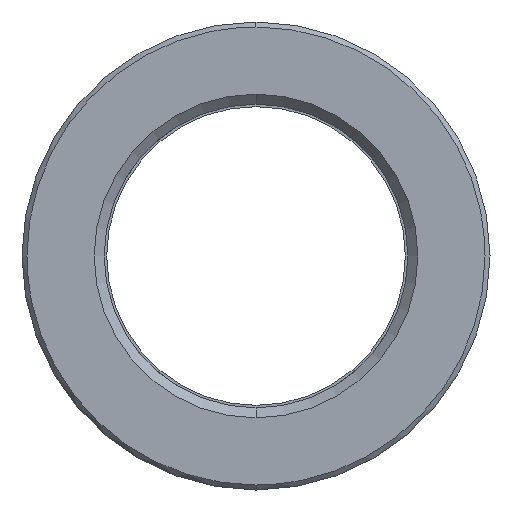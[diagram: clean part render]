
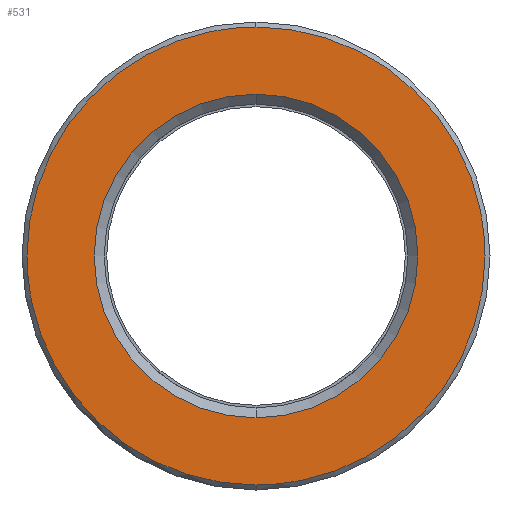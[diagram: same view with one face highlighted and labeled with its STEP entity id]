
A CAD part, left-side view. The second image highlights one B-rep face of the part: STEP entity #531.
In plain terms, the highlighted planar face has unit normal (-1, 0, 0).
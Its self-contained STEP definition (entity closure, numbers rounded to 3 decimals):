
#311=CARTESIAN_POINT('Axis2P3D Location',(0.,0.,0.)) ;
#315=CARTESIAN_POINT('Vertex',(0.,16.25,0.)) ;
#317=CARTESIAN_POINT('Vertex',(0.,0.,16.25)) ;
#320=CARTESIAN_POINT('Axis2P3D Location',(0.,0.,0.)) ;
#324=CARTESIAN_POINT('Vertex',(0.,0.,-16.25)) ;
#351=CARTESIAN_POINT('Axis2P3D Location',(0.,0.,0.)) ;
#355=CARTESIAN_POINT('Vertex',(0.,-16.25,0.)) ;
#358=CARTESIAN_POINT('Axis2P3D Location',(0.,0.,0.)) ;
#438=CARTESIAN_POINT('Axis2P3D Location',(0.,23.,0.)) ;
#444=CARTESIAN_POINT('Control Point',(0.,0.,-23.)) ;
#445=CARTESIAN_POINT('Control Point',(0.,1.232,-23.)) ;
#446=CARTESIAN_POINT('Control Point',(0.,2.465,-22.917)) ;
#447=CARTESIAN_POINT('Control Point',(0.,3.69,-22.752)) ;
#448=CARTESIAN_POINT('Control Point',(0.,6.977,-22.083)) ;
#449=CARTESIAN_POINT('Control Point',(0.,10.102,-20.826)) ;
#450=CARTESIAN_POINT('Control Point',(0.,11.977,-19.807)) ;
#451=CARTESIAN_POINT('Control Point',(0.,15.458,-17.357)) ;
#452=CARTESIAN_POINT('Control Point',(0.,18.293,-14.182)) ;
#453=CARTESIAN_POINT('Control Point',(0.,19.521,-12.437)) ;
#454=CARTESIAN_POINT('Control Point',(0.,21.386,-9.007)) ;
#455=CARTESIAN_POINT('Control Point',(0.,22.493,-5.271)) ;
#456=CARTESIAN_POINT('Control Point',(0.,22.831,-3.528)) ;
#457=CARTESIAN_POINT('Control Point',(0.,23.,-1.764)) ;
#458=CARTESIAN_POINT('Control Point',(0.,23.,0.)) ;
#459=CARTESIAN_POINT('Vertex',(0.,0.,-23.)) ;
#461=CARTESIAN_POINT('Vertex',(0.,23.,0.)) ;
#465=CARTESIAN_POINT('Control Point',(0.,-23.,0.)) ;
#466=CARTESIAN_POINT('Control Point',(0.,-23.,-2.115)) ;
#467=CARTESIAN_POINT('Control Point',(0.,-22.757,-4.229)) ;
#468=CARTESIAN_POINT('Control Point',(0.,-22.271,-6.306)) ;
#469=CARTESIAN_POINT('Control Point',(0.,-20.83,-10.312)) ;
#470=CARTESIAN_POINT('Control Point',(0.,-18.518,-13.886)) ;
#471=CARTESIAN_POINT('Control Point',(0.,-17.161,-15.532)) ;
#472=CARTESIAN_POINT('Control Point',(0.,-14.093,-18.483)) ;
#473=CARTESIAN_POINT('Control Point',(0.,-10.435,-20.661)) ;
#474=CARTESIAN_POINT('Control Point',(0.,-8.489,-21.534)) ;
#475=CARTESIAN_POINT('Control Point',(0.,-5.613,-22.443)) ;
#476=CARTESIAN_POINT('Control Point',(0.,-2.644,-22.873)) ;
#477=CARTESIAN_POINT('Control Point',(0.,-1.764,-22.958)) ;
#478=CARTESIAN_POINT('Control Point',(0.,-0.882,-23.)) ;
#479=CARTESIAN_POINT('Control Point',(0.,0.,-23.)) ;
#480=CARTESIAN_POINT('Vertex',(0.,-23.,0.)) ;
#484=CARTESIAN_POINT('Control Point',(0.,0.,23.)) ;
#485=CARTESIAN_POINT('Control Point',(0.,-1.232,23.)) ;
#486=CARTESIAN_POINT('Control Point',(0.,-2.465,22.917)) ;
#487=CARTESIAN_POINT('Control Point',(0.,-3.69,22.752)) ;
#488=CARTESIAN_POINT('Control Point',(0.,-6.977,22.083)) ;
#489=CARTESIAN_POINT('Control Point',(0.,-10.102,20.826)) ;
#490=CARTESIAN_POINT('Control Point',(0.,-11.977,19.807)) ;
#491=CARTESIAN_POINT('Control Point',(0.,-15.458,17.357)) ;
#492=CARTESIAN_POINT('Control Point',(0.,-18.293,14.182)) ;
#493=CARTESIAN_POINT('Control Point',(0.,-19.521,12.437)) ;
#494=CARTESIAN_POINT('Control Point',(0.,-21.386,9.007)) ;
#495=CARTESIAN_POINT('Control Point',(0.,-22.493,5.271)) ;
#496=CARTESIAN_POINT('Control Point',(0.,-22.831,3.528)) ;
#497=CARTESIAN_POINT('Control Point',(0.,-23.,1.764)) ;
#498=CARTESIAN_POINT('Control Point',(0.,-23.,0.)) ;
#499=CARTESIAN_POINT('Vertex',(0.,0.,23.)) ;
#503=CARTESIAN_POINT('Control Point',(0.,23.,0.)) ;
#504=CARTESIAN_POINT('Control Point',(0.,23.,2.115)) ;
#505=CARTESIAN_POINT('Control Point',(0.,22.757,4.229)) ;
#506=CARTESIAN_POINT('Control Point',(0.,22.271,6.306)) ;
#507=CARTESIAN_POINT('Control Point',(0.,20.83,10.312)) ;
#508=CARTESIAN_POINT('Control Point',(0.,18.518,13.886)) ;
#509=CARTESIAN_POINT('Control Point',(0.,17.161,15.532)) ;
#510=CARTESIAN_POINT('Control Point',(0.,14.093,18.483)) ;
#511=CARTESIAN_POINT('Control Point',(0.,10.435,20.661)) ;
#512=CARTESIAN_POINT('Control Point',(0.,8.489,21.534)) ;
#513=CARTESIAN_POINT('Control Point',(0.,5.613,22.443)) ;
#514=CARTESIAN_POINT('Control Point',(0.,2.644,22.873)) ;
#515=CARTESIAN_POINT('Control Point',(0.,1.764,22.958)) ;
#516=CARTESIAN_POINT('Control Point',(0.,0.882,23.)) ;
#517=CARTESIAN_POINT('Control Point',(0.,0.,23.)) ;
#312=DIRECTION('Axis2P3D Direction',(-1.,0.,0.)) ;
#321=DIRECTION('Axis2P3D Direction',(-1.,0.,0.)) ;
#352=DIRECTION('Axis2P3D Direction',(-1.,0.,0.)) ;
#359=DIRECTION('Axis2P3D Direction',(-1.,0.,0.)) ;
#439=DIRECTION('Axis2P3D Direction',(-1.,0.,0.)) ;
#440=DIRECTION('Axis2P3D XDirection',(0.,0.,1.)) ;
#313=AXIS2_PLACEMENT_3D('Circle Axis2P3D',#311,#312,$) ;
#322=AXIS2_PLACEMENT_3D('Circle Axis2P3D',#320,#321,$) ;
#353=AXIS2_PLACEMENT_3D('Circle Axis2P3D',#351,#352,$) ;
#360=AXIS2_PLACEMENT_3D('Circle Axis2P3D',#358,#359,$) ;
#441=AXIS2_PLACEMENT_3D('Plane Axis2P3D',#438,#439,#440) ;
#520=ORIENTED_EDGE('',*,*,#463,.F.) ;
#521=ORIENTED_EDGE('',*,*,#482,.F.) ;
#522=ORIENTED_EDGE('',*,*,#501,.F.) ;
#523=ORIENTED_EDGE('',*,*,#518,.F.) ;
#526=ORIENTED_EDGE('',*,*,#319,.T.) ;
#527=ORIENTED_EDGE('',*,*,#362,.T.) ;
#528=ORIENTED_EDGE('',*,*,#357,.T.) ;
#529=ORIENTED_EDGE('',*,*,#326,.T.) ;
#530=FACE_BOUND('',#525,.T.) ;
#531=ADVANCED_FACE('553-30X116',(#524,#530),#442,.T.) ;
#443=B_SPLINE_CURVE_WITH_KNOTS('',5,(#444,#445,#446,#447,#448,#449,#450,#451,#452,#453,#454,#455,#456,#457,#458),.UNSPECIFIED.,.F.,.U.,(6,3,3,3,6),(51.093,59.807,74.759,89.711,102.186),.UNSPECIFIED.) ;
#464=B_SPLINE_CURVE_WITH_KNOTS('',5,(#465,#466,#467,#468,#469,#470,#471,#472,#473,#474,#475,#476,#477,#478,#479),.UNSPECIFIED.,.F.,.U.,(6,3,3,3,6),(0.,14.952,29.904,44.855,51.093),.UNSPECIFIED.) ;
#483=B_SPLINE_CURVE_WITH_KNOTS('',5,(#484,#485,#486,#487,#488,#489,#490,#491,#492,#493,#494,#495,#496,#497,#498),.UNSPECIFIED.,.F.,.U.,(6,3,3,3,6),(51.093,59.807,74.759,89.711,102.186),.UNSPECIFIED.) ;
#502=B_SPLINE_CURVE_WITH_KNOTS('',5,(#503,#504,#505,#506,#507,#508,#509,#510,#511,#512,#513,#514,#515,#516,#517),.UNSPECIFIED.,.F.,.U.,(6,3,3,3,6),(0.,14.952,29.904,44.855,51.093),.UNSPECIFIED.) ;
#314=CIRCLE('generated circle',#313,16.25) ;
#323=CIRCLE('generated circle',#322,16.25) ;
#354=CIRCLE('generated circle',#353,16.25) ;
#361=CIRCLE('generated circle',#360,16.25) ;
#319=EDGE_CURVE('',#316,#318,#314,.F.) ;
#326=EDGE_CURVE('',#325,#316,#323,.F.) ;
#357=EDGE_CURVE('',#356,#325,#354,.F.) ;
#362=EDGE_CURVE('',#318,#356,#361,.F.) ;
#463=EDGE_CURVE('',#460,#462,#443,.T.) ;
#482=EDGE_CURVE('',#481,#460,#464,.T.) ;
#501=EDGE_CURVE('',#500,#481,#483,.T.) ;
#518=EDGE_CURVE('',#462,#500,#502,.T.) ;
#519=EDGE_LOOP('',(#520,#521,#522,#523)) ;
#525=EDGE_LOOP('',(#526,#527,#528,#529)) ;
#524=FACE_OUTER_BOUND('',#519,.T.) ;
#442=PLANE('Plane',#441) ;
#316=VERTEX_POINT('',#315) ;
#318=VERTEX_POINT('',#317) ;
#325=VERTEX_POINT('',#324) ;
#356=VERTEX_POINT('',#355) ;
#460=VERTEX_POINT('',#459) ;
#462=VERTEX_POINT('',#461) ;
#481=VERTEX_POINT('',#480) ;
#500=VERTEX_POINT('',#499) ;
